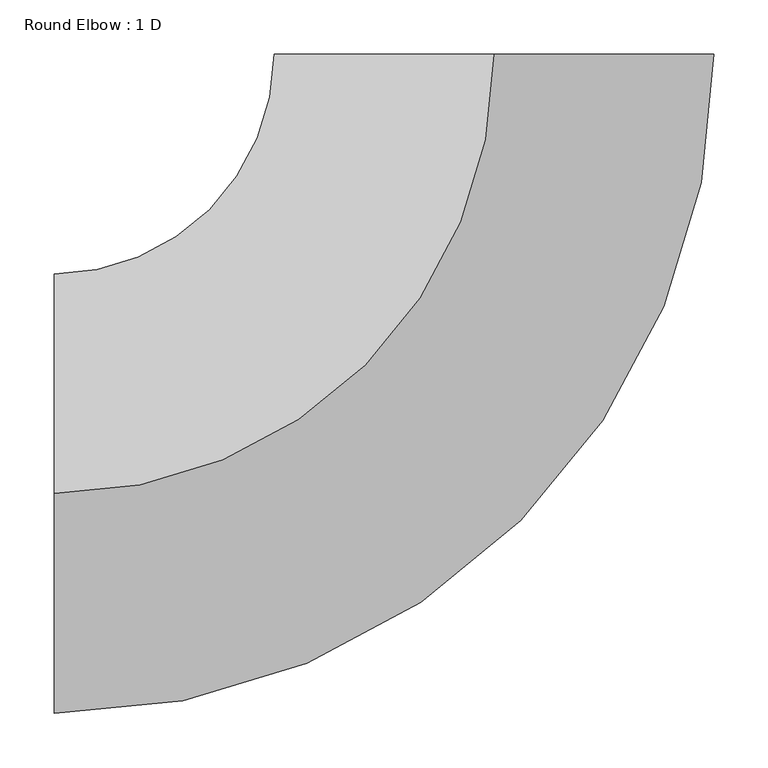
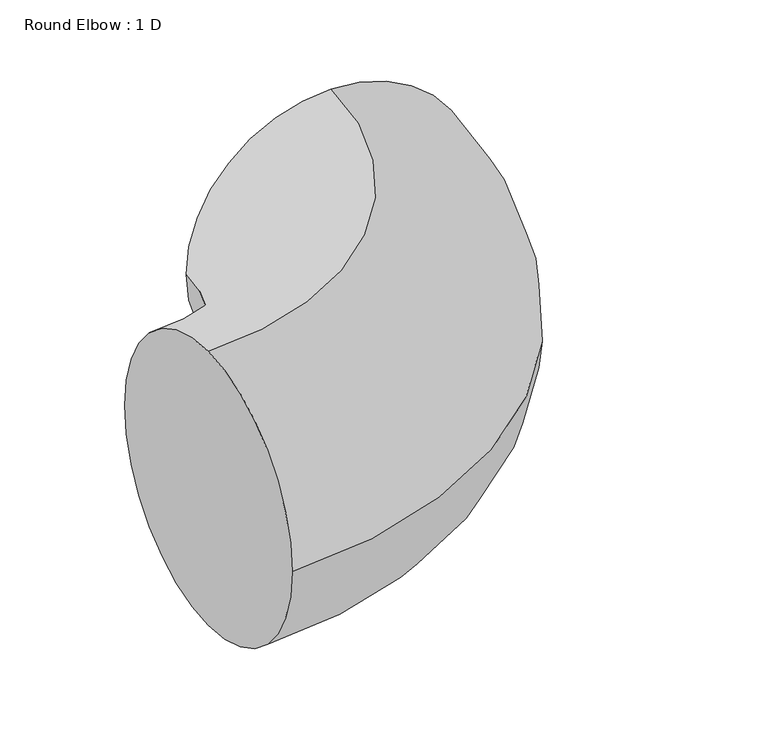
"""IFC4 building model written with IfcOpenShell, lengths in millimetres: duct fitting geometry, Round Elbow : 1 D."""

from ifc_helpers import new_model, si_unit, point, frame, origin, place, context, project, spatial, circle_curve, ellipse_curve, trimmed, source, transform, mapped, element, save
from ifc_brep_helpers import plane_surface, revolved_surface, advanced_brep


def round_elbow_1_d_20c19032(model_context):
    return source(origin(), model_context, "Body", "AdvancedBrep", [
        advanced_brep(
        [(-406.4001326, 0.0, 203.2), (-406.4001326, 203.2, 0.0), (-406.4001326, 0.0, -203.2), (-406.4001326, -203.2, 0.0), (-0.0001326, 406.4001326, 203.2), (203.1998674, 406.4001989, 0.0), (-0.0001326, 406.4001326, -203.2), (-203.2001326, 406.4000663, 0.0)],
        [
            (0, 1, circle_curve(frame((-406.4001326, 0.0, 0.0), z_axis=(-1.0, 0.0, 0.0), x_axis=(0.0, 1.0, 0.0)), 203.2)),
            (1, 2, circle_curve(frame((-406.4001326, 0.0, 0.0), z_axis=(-1.0, 0.0, 0.0), x_axis=(0.0, 1.0, 0.0)), 203.2)),
            (2, 3, circle_curve(frame((-406.4001326, 0.0, 0.0), z_axis=(-1.0, 0.0, 0.0), x_axis=(0.0, 1.0, 0.0)), 203.2)),
            (3, 0, circle_curve(frame((-406.4001326, 0.0, 0.0), z_axis=(-1.0, 0.0, 0.0), x_axis=(0.0, 1.0, 0.0)), 203.2)),
            (4, 5, circle_curve(frame((-0.0001326, 406.4001326, 0.0), z_axis=(-3.2623672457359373e-07, 0.9999999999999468, 0.0), x_axis=(-0.9999999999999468, -3.2623672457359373e-07, 0.0)), 203.2)),
            (5, 6, circle_curve(frame((-0.0001326, 406.4001326, 0.0), z_axis=(-3.2623672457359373e-07, 0.9999999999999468, 0.0), x_axis=(-0.9999999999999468, -3.2623672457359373e-07, 0.0)), 203.2)),
            (6, 7, circle_curve(frame((-0.0001326, 406.4001326, 0.0), z_axis=(-3.2623672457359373e-07, 0.9999999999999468, 0.0), x_axis=(-0.9999999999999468, -3.2623672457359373e-07, 0.0)), 203.2)),
            (7, 4, circle_curve(frame((-0.0001326, 406.4001326, 0.0), z_axis=(-3.2623672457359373e-07, 0.9999999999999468, 0.0), x_axis=(-0.9999999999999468, -3.2623672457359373e-07, 0.0)), 203.2)),
            (7, 1, circle_curve(frame((-406.4001326, 406.4, 0.0), z_axis=(0.0, 0.0, -1.0), x_axis=(0.0, -1.0, 0.0)), 203.2)),
            (0, 4, circle_curve(frame((-406.4001326, 406.4, 203.2), z_axis=(0.0, 0.0, 1.0), x_axis=(0.0, -1.0, 0.0)), 406.4)),
            (6, 2, circle_curve(frame((-406.4001326, 406.4, -203.2), z_axis=(0.0, 0.0, -1.0), x_axis=(0.0, -1.0, 0.0)), 406.4)),
            (5, 3, circle_curve(frame((-406.4001326, 406.4, 0.0), z_axis=(0.0, 0.0, -1.0), x_axis=(0.0, -1.0, 0.0)), 609.6)),
        ],
        [
            plane_surface(frame((-406.4001326, 0.0, 0.0), z_axis=(-1.0, 0.0, 0.0), x_axis=(0.0, 0.0, 1.0))),
            plane_surface(frame((-0.0001326, 406.4001326, 0.0), z_axis=(-3.262367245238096e-07, 0.9999999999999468, 0.0), x_axis=(0.0, 0.0, 1.0))),
            revolved_surface(trimmed(ellipse_curve(frame((-406.4001326, 0.0, 0.0), z_axis=(-1.0, 0.0, 0.0), x_axis=(0.0, 1.0, 0.0)), 203.2, 203.2), [point((-406.4001326, 0.0, 203.2))], [point((-406.4001326, 203.2, 0.0))], True, "CARTESIAN"), (-406.4001326, 406.4, 0.0), (0.0, 0.0, 1.0)),
            revolved_surface(trimmed(ellipse_curve(frame((-406.4001326, 0.0, 0.0), z_axis=(-1.0, 0.0, 0.0), x_axis=(0.0, 1.0, 0.0)), 203.2, 203.2), [point((-406.4001326, 203.2, 0.0))], [point((-406.4001326, 0.0, -203.2))], True, "CARTESIAN"), (-406.4001326, 406.4, 0.0), (0.0, 0.0, 1.0)),
            revolved_surface(trimmed(ellipse_curve(frame((-406.4001326, 0.0, 0.0), z_axis=(-1.0, 0.0, 0.0), x_axis=(0.0, 1.0, 0.0)), 203.2, 203.2), [point((-406.4001326, 0.0, -203.2))], [point((-406.4001326, -203.2, 0.0))], True, "CARTESIAN"), (-406.4001326, 406.4, 0.0), (0.0, 0.0, 1.0)),
            revolved_surface(trimmed(ellipse_curve(frame((-406.4001326, 0.0, 0.0), z_axis=(-1.0, 0.0, 0.0), x_axis=(0.0, 1.0, 0.0)), 203.2, 203.2), [point((-406.4001326, -203.2, 0.0))], [point((-406.4001326, 0.0, 203.2))], True, "CARTESIAN"), (-406.4001326, 406.4, 0.0), (0.0, 0.0, 1.0)),
        ],
        [
            (0, [[1, 2, 3, 4]]),
            (1, [[5, 6, 7, 8]]),
            (2, [[9, -1, 10, -8]]),
            (3, [[11, -2, -9, -7]]),
            (4, [[12, -3, -11, -6]]),
            (5, [[-10, -4, -12, -5]]),
        ],
    ),
    ])


if __name__ == "__main__":
    model = new_model("IFC4")
    model_context = context("Model", 3, world=origin())
    ifc_project = project(units=[si_unit("LENGTHUNIT", "METRE", prefix="MILLI")], contexts=[model_context])
    site = spatial("IfcSite", under=ifc_project)
    building = spatial("IfcBuilding", under=site)
    placement = place(None, origin())
    round_elbow_1_d_shape = round_elbow_1_d_20c19032(model_context)
    element("IfcDuctFitting", 1, ObjectType="Round Elbow : 1 D", at=placement, inside=building, context=model_context, shape_type="MappedRepresentation", body=[
        mapped(round_elbow_1_d_shape, transform((0.0, 0.0, 0.0), x_axis=(1.0, 0.0, 0.0), y_axis=(0.0, 1.0, 0.0), z_axis=(0.0, 0.0, 1.0))),
    ])
    save(model, "model.ifc")
